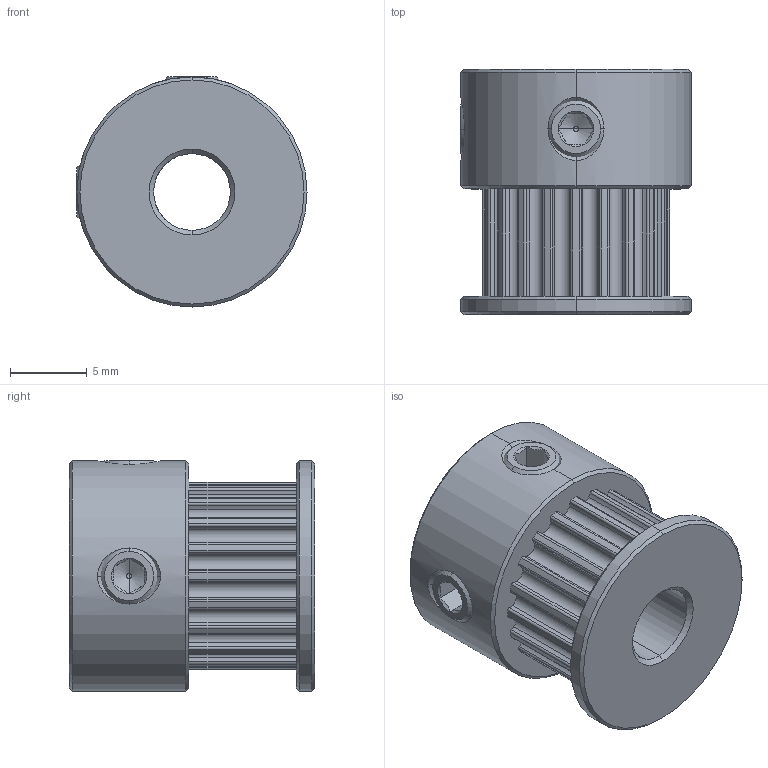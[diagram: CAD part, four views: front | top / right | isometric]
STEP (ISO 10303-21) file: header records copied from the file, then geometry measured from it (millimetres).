
FILE_DESCRIPTION (( 'STEP AP214' ), '1' );
FILE_NAME ('GT2_Pully_20T_6mm.STEP', '2026-08-22T12:14:05', ( '' ), ( '' ), 'SwSTEP 2.0', 'SolidWorks 2026', '' );
FILE_SCHEMA (( 'AUTOMOTIVE_DESIGN' ));
Length unit declared in the file: millimetre
Products named in the file (4): GT2_Pully_20T_6mm; GT2_Pulley_20T_6mm.step; GT2_Pully_20T_6mm.step; M4x5-Screw028.step
Assembly tree (4 placements, depth 3):
  GT2_Pully_20T_6mm
    GT2_Pully_20T_6mm.step
      GT2_Pulley_20T_6mm.step
      M4x5-Screw028.step  x2
Bounding box: 15 x 16 x 15 mm (x, y, z)
Volume: 2007.5 mm3; surface area: 1740.5 mm2
Topology: 3 solids, 3 shells, 198 faces, 516 edges, 326 vertices
Faces by surface type: cylinder 134, cone 40, plane 20, sphere 4
Entity records: 6228 total; most frequent: CARTESIAN_POINT 1500, DIRECTION 1100, ORIENTED_EDGE 944, EDGE_CURVE 472, AXIS2_PLACEMENT_3D 469, VERTEX_POINT 303, CIRCLE 287, EDGE_LOOP 181
